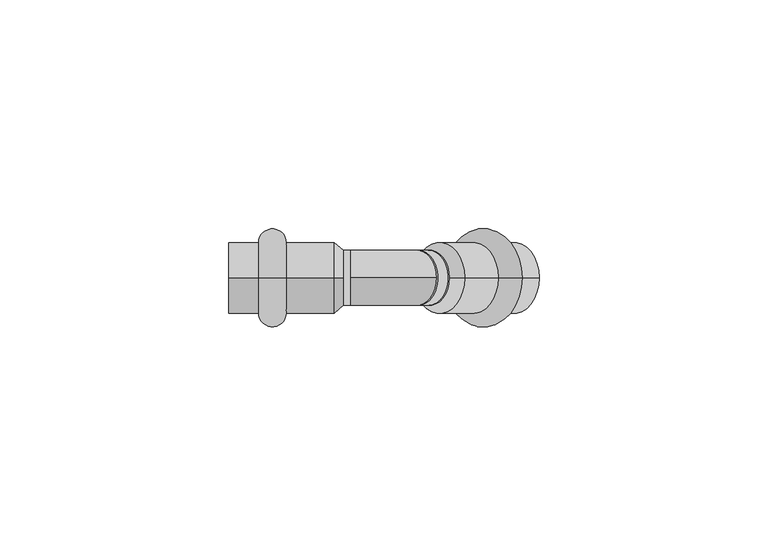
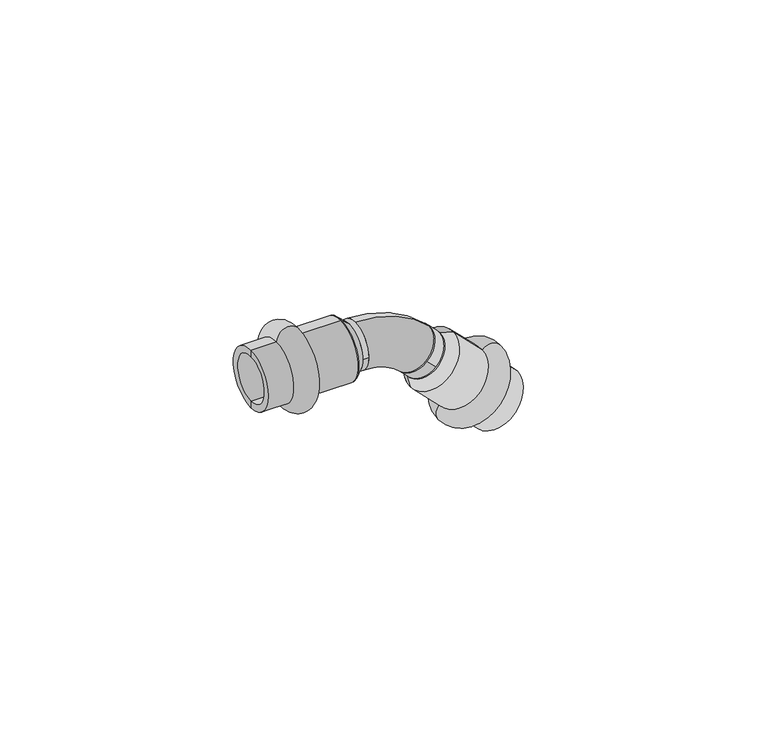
"""IFC4 building model written with IfcOpenShell, lengths in millimetres: pipe fitting geometry, VALTEC_VTi.959.I_Угольник 45° (раструб–раструб) нержавеющая сталь : Тип 1."""

from ifc_helpers import new_model, si_unit, point, frame, frame_2d, origin, origin_2d, place, context, project, spatial, polyline, circle_curve, ellipse_curve, trimmed, segment, composite_curve, outline, extrude, source, transform, mapped, element, save
from ifc_brep_helpers import plane_surface, cylinder_surface, revolved_surface, advanced_brep


def pipe_fitting_9338b2b2(model_context):
    return source(origin(), model_context, "Body", "SolidModel", [
        advanced_brep(
        [(-3.5, 0.0, 7.75), (-3.5, 0.0, -7.75), (-1.5, 0.0, 6.0), (-1.5, 0.0, -6.0)],
        [
            (0, 1, circle_curve(frame((-3.5, 0.0, 0.0), z_axis=(-1.0, 0.0, 0.0), x_axis=(0.0, 0.0, 1.0)), 7.75)),
            (1, 0, circle_curve(frame((-3.5, 0.0, 0.0), z_axis=(-1.0, 0.0, 0.0), x_axis=(0.0, 0.0, -1.0)), 7.75)),
            (2, 3, circle_curve(frame((-1.5, 0.0, 0.0), z_axis=(1.0, 0.0, 0.0), x_axis=(0.0, 0.0, -1.0)), 6.0)),
            (3, 2, circle_curve(frame((-1.5, 0.0, 0.0), z_axis=(1.0, 0.0, 0.0), x_axis=(0.0, 0.0, 1.0)), 6.0)),
            (3, 1),
            (0, 2),
        ],
        [
            plane_surface(frame((-3.5, 0.0, 0.0), z_axis=(-1.0, 0.0, 0.0), x_axis=(0.0, 1.0, 0.0))),
            plane_surface(frame((-1.5, 0.0, 0.0), z_axis=(1.0, 0.0, 0.0), x_axis=(0.0, 1.0, 0.0))),
            revolved_surface(polyline([(-1.5, 0.0, -6.000000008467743), (-3.499999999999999, 0.0, -7.75)]), (5.3571429, 0.0, 0.0), (-1.0, 0.0, 0.0)),
            revolved_surface(polyline([(-1.5, 0.0, 6.000000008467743), (-3.499999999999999, 0.0, 7.75)]), (5.3571429, 0.0, 0.0), (-1.0, 0.0, 0.0)),
        ],
        [
            (0, [[1, 2]]),
            (1, [[3, 4]]),
            (2, [[-4, 5, -1, 6]]),
            (3, [[-3, -6, -2, -5]]),
        ],
    ),
        advanced_brep(
        [(14.0186598, 0.0, -16.2803301), (24.9788149, 0.0, -5.320175), (13.1347763, 0.0, -12.9215729), (21.6200577, 0.0, -4.4362915)],
        [
            (0, 1, circle_curve(frame((19.4987373, 0.0, -10.8002525), z_axis=(0.7071067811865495, 0.0, -0.7071067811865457), x_axis=(-0.7071067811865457, 0.0, -0.7071067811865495)), 7.75)),
            (1, 0, circle_curve(frame((19.4987373, 0.0, -10.8002525), z_axis=(0.7071067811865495, 0.0, -0.7071067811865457), x_axis=(0.7071067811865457, 0.0, 0.7071067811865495)), 7.75)),
            (2, 3, circle_curve(frame((17.377417, 0.0, -8.6789322), z_axis=(-0.7071067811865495, 0.0, 0.7071067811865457), x_axis=(0.7071067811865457, 0.0, 0.7071067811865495)), 6.0)),
            (3, 2, circle_curve(frame((17.377417, 0.0, -8.6789322), z_axis=(-0.7071067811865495, 0.0, 0.7071067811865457), x_axis=(-0.7071067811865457, 0.0, -0.7071067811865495)), 6.0)),
            (3, 1),
            (0, 2),
        ],
        [
            plane_surface(frame((19.4987373, 0.0, -10.8002525), z_axis=(0.7071067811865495, 0.0, -0.7071067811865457), x_axis=(0.0, 1.0, 0.0))),
            plane_surface(frame((17.377417, 0.0, -8.6789322), z_axis=(-0.7071067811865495, 0.0, 0.7071067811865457), x_axis=(0.0, 1.0, 0.0))),
            revolved_surface(polyline([(21.62005767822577, 0.0, -4.4362915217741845), (24.9788149, 0.0, -5.320175)]), (10.1043187, 0.0, -1.4058339), (0.7071067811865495, 0.0, -0.7071067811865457)),
            revolved_surface(polyline([(13.134776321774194, 0.0, -12.921572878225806), (14.01865980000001, 0.0, -16.280330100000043)]), (10.1043187, 0.0, -1.4058339), (0.7071067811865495, 0.0, -0.7071067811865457)),
        ],
        [
            (0, [[1, 2]]),
            (1, [[3, 4]]),
            (2, [[-4, 5, -1, 6]]),
            (3, [[-3, -6, -2, -5]]),
        ],
    ),
        advanced_brep(
        [(-20.0, 0.0, -7.75), (-20.0, 0.0, 7.75), (-14.0, 0.0, 7.75), (-14.0, 0.0, -7.75), (-26.5, 0.0, -7.75), (-26.5, 0.0, 7.75), (-26.5, 0.0, -6.0), (-26.5, 0.0, 6.0), (-3.5, 0.0, -6.0), (-3.5, 0.0, 6.0), (-3.5, 0.0, -7.75), (-3.5, 0.0, 7.75)],
        [
            (0, 1, circle_curve(frame((-20.0, 0.0, 0.0), z_axis=(1.0, 0.0, 0.0), x_axis=(0.0, 0.0, 1.0)), 7.75)),
            (1, 2, circle_curve(frame((-17.0, 0.0, 7.75), z_axis=(0.0, 1.0, 0.0), x_axis=(1.0, 0.0, 0.0)), 3.0)),
            (2, 3, circle_curve(frame((-14.0, 0.0, 0.0), z_axis=(-1.0, 0.0, 0.0), x_axis=(0.0, 0.0, 1.0)), 7.75)),
            (3, 0, circle_curve(frame((-17.0, 0.0, -7.75), z_axis=(0.0, 1.0, 0.0), x_axis=(1.0, 0.0, 0.0)), 3.0)),
            (1, 0, circle_curve(frame((-20.0, 0.0, 0.0), z_axis=(1.0, 0.0, 0.0), x_axis=(0.0, 0.0, 1.0)), 7.75)),
            (3, 2, circle_curve(frame((-14.0, 0.0, 0.0), z_axis=(-1.0, 0.0, 0.0), x_axis=(0.0, 0.0, 1.0)), 7.75)),
            (4, 5, circle_curve(frame((-26.5, 0.0, 0.0), z_axis=(1.0, 0.0, 0.0), x_axis=(0.0, 0.0, 1.0)), 7.75)),
            (5, 1),
            (0, 4),
            (5, 4, circle_curve(frame((-26.5, 0.0, 0.0), z_axis=(1.0, 0.0, 0.0), x_axis=(0.0, 0.0, 1.0)), 7.75)),
            (6, 7, circle_curve(frame((-26.5, 0.0, 0.0), z_axis=(1.0, 0.0, 0.0), x_axis=(0.0, 0.0, 1.0)), 6.0)),
            (7, 5),
            (4, 6),
            (7, 6, circle_curve(frame((-26.5, 0.0, 0.0), z_axis=(1.0, 0.0, 0.0), x_axis=(0.0, 0.0, 1.0)), 6.0)),
            (8, 9, circle_curve(frame((-3.5, 0.0, 0.0), z_axis=(1.0, 0.0, 0.0), x_axis=(0.0, 0.0, 1.0)), 6.0)),
            (9, 7),
            (6, 8),
            (9, 8, circle_curve(frame((-3.5, 0.0, 0.0), z_axis=(1.0, 0.0, 0.0), x_axis=(0.0, 0.0, 1.0)), 6.0)),
            (10, 11, circle_curve(frame((-3.5, 0.0, 0.0), z_axis=(1.0, 0.0, 0.0), x_axis=(0.0, 0.0, 1.0)), 7.75)),
            (11, 9),
            (8, 10),
            (11, 10, circle_curve(frame((-3.5, 0.0, 0.0), z_axis=(1.0, 0.0, 0.0), x_axis=(0.0, 0.0, 1.0)), 7.75)),
            (2, 11),
            (10, 3),
        ],
        [
            revolved_surface(trimmed(ellipse_curve(frame((-17.0, 0.0, 7.75), z_axis=(0.0, -1.0, 0.0), x_axis=(1.0, 0.0, 0.0)), 3.0, 3.0), [point((-14.0, 0.0, 7.75))], [point((-20.0, 0.0, 7.75))], True, "CARTESIAN"), (-30.0364426, 0.0, 0.0), (-1.0, 0.0, 0.0)),
            cylinder_surface(frame((-30.0364426, 0.0, 0.0), z_axis=(-1.0, 0.0, 0.0), x_axis=(0.0, 0.0, 1.0)), 7.75),
            plane_surface(frame((-26.5, 0.0, 0.0), z_axis=(-1.0, 0.0, 0.0), x_axis=(0.0, 0.0, 1.0))),
            revolved_surface(polyline([(-26.5, 0.0, 6.0), (-3.5, 0.0, 6.0)]), (-30.0364426, 0.0, 0.0), (-1.0, 0.0, 0.0)),
            plane_surface(frame((-3.5, 0.0, 0.0), z_axis=(1.0, 0.0, 0.0), x_axis=(0.0, 0.0, 1.0))),
        ],
        [
            (0, [[1, 2, 3, 4]]),
            (0, [[5, -4, 6, -2]]),
            (1, [[7, 8, -1, 9]]),
            (1, [[10, -9, -5, -8]]),
            (2, [[11, 12, -7, 13]]),
            (2, [[14, -13, -10, -12]]),
            (3, [[15, 16, -11, 17]]),
            (3, [[18, -17, -14, -16]]),
            (4, [[19, 20, -15, 21]]),
            (4, [[22, -21, -18, -20]]),
            (1, [[-3, 23, -19, 24]]),
            (1, [[-6, -24, -22, -23]]),
        ],
    ),
        advanced_brep(
        [(36.6460768, 0.0, -16.9874369), (25.6859217, 0.0, -27.947592), (21.443281, 0.0, -23.7049513), (32.4034361, 0.0, -12.7447962), (41.2422709, 0.0, -21.5836309), (30.2821158, 0.0, -32.5437861), (40.004834, 0.0, -22.8210678), (31.5195526, 0.0, -31.3063492), (23.741378, 0.0, -6.5576118), (15.2560967, 0.0, -15.0428932), (24.9788149, 0.0, -5.320175), (14.0186598, 0.0, -16.2803301)],
        [
            (0, 1, circle_curve(frame((31.1659992, 0.0, -22.4675144), z_axis=(-0.7071067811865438, 0.0, 0.7071067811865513), x_axis=(-0.7071067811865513, 0.0, -0.7071067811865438)), 7.75)),
            (1, 2, circle_curve(frame((23.5646013, 0.0, -25.8262716), z_axis=(0.0, 1.0, 0.0), x_axis=(-0.7071067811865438, 0.0, 0.7071067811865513)), 3.0)),
            (2, 3, circle_curve(frame((26.9233585, 0.0, -18.2248737), z_axis=(0.7071067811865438, 0.0, -0.7071067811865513), x_axis=(-0.7071067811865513, 0.0, -0.7071067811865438)), 7.75)),
            (3, 0, circle_curve(frame((34.5247564, 0.0, -14.8661165), z_axis=(0.0, 1.0, 0.0), x_axis=(-0.7071067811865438, 0.0, 0.7071067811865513)), 3.0)),
            (1, 0, circle_curve(frame((31.1659992, 0.0, -22.4675144), z_axis=(-0.7071067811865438, 0.0, 0.7071067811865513), x_axis=(-0.7071067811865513, 0.0, -0.7071067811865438)), 7.75)),
            (3, 2, circle_curve(frame((26.9233585, 0.0, -18.2248737), z_axis=(0.7071067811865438, 0.0, -0.7071067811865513), x_axis=(-0.7071067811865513, 0.0, -0.7071067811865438)), 7.75)),
            (4, 5, circle_curve(frame((35.7621933, 0.0, -27.0637085), z_axis=(-0.7071067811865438, 0.0, 0.7071067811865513), x_axis=(-0.7071067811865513, 0.0, -0.7071067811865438)), 7.75)),
            (5, 1),
            (0, 4),
            (5, 4, circle_curve(frame((35.7621933, 0.0, -27.0637085), z_axis=(-0.7071067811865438, 0.0, 0.7071067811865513), x_axis=(-0.7071067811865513, 0.0, -0.7071067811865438)), 7.75)),
            (6, 7, circle_curve(frame((35.7621933, 0.0, -27.0637085), z_axis=(-0.7071067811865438, 0.0, 0.7071067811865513), x_axis=(-0.7071067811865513, 0.0, -0.7071067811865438)), 6.0)),
            (7, 5),
            (4, 6),
            (7, 6, circle_curve(frame((35.7621933, 0.0, -27.0637085), z_axis=(-0.7071067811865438, 0.0, 0.7071067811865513), x_axis=(-0.7071067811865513, 0.0, -0.7071067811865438)), 6.0)),
            (8, 9, circle_curve(frame((19.4987373, 0.0, -10.8002525), z_axis=(-0.7071067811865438, 0.0, 0.7071067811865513), x_axis=(-0.7071067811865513, 0.0, -0.7071067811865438)), 6.0)),
            (9, 7),
            (6, 8),
            (9, 8, circle_curve(frame((19.4987373, 0.0, -10.8002525), z_axis=(-0.7071067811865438, 0.0, 0.7071067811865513), x_axis=(-0.7071067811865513, 0.0, -0.7071067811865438)), 6.0)),
            (10, 11, circle_curve(frame((19.4987373, 0.0, -10.8002525), z_axis=(-0.7071067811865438, 0.0, 0.7071067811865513), x_axis=(-0.7071067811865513, 0.0, -0.7071067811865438)), 7.75)),
            (11, 9),
            (8, 10),
            (11, 10, circle_curve(frame((19.4987373, 0.0, -10.8002525), z_axis=(-0.7071067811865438, 0.0, 0.7071067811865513), x_axis=(-0.7071067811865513, 0.0, -0.7071067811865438)), 7.75)),
            (2, 11),
            (10, 3),
        ],
        [
            revolved_surface(trimmed(ellipse_curve(frame((23.5646013, 0.0, -25.8262716), z_axis=(0.0, -1.0, 0.0), x_axis=(-0.7071067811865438, 0.0, 0.7071067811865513)), 3.0, 3.0), [point((21.443281, 0.0, -23.7049513))], [point((25.6859217, 0.0, -27.947592))], True, "CARTESIAN"), (38.2628359, 0.0, -29.5643511), (0.7071067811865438, 0.0, -0.7071067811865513)),
            cylinder_surface(frame((38.2628359, 0.0, -29.5643511), z_axis=(0.7071067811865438, 0.0, -0.7071067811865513), x_axis=(-0.7071067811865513, 0.0, -0.7071067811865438)), 7.75),
            plane_surface(frame((35.7621933, 0.0, -27.0637085), z_axis=(0.7071067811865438, 0.0, -0.7071067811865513), x_axis=(-0.7071067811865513, 0.0, -0.7071067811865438))),
            revolved_surface(polyline([(31.51955261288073, 0.0, -31.306349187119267), (15.256096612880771, 0.0, -15.042893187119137)]), (38.2628359, 0.0, -29.5643511), (0.7071067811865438, 0.0, -0.7071067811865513)),
            plane_surface(frame((19.4987373, 0.0, -10.8002525), z_axis=(-0.7071067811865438, 0.0, 0.7071067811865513), x_axis=(-0.7071067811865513, 0.0, -0.7071067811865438))),
        ],
        [
            (0, [[1, 2, 3, 4]]),
            (0, [[5, -4, 6, -2]]),
            (1, [[7, 8, -1, 9]]),
            (1, [[10, -9, -5, -8]]),
            (2, [[11, 12, -7, 13]]),
            (2, [[14, -13, -10, -12]]),
            (3, [[15, 16, -11, 17]]),
            (3, [[18, -17, -14, -16]]),
            (4, [[19, 20, -15, 21]]),
            (4, [[22, -21, -18, -20]]),
            (1, [[-3, 23, -19, 24]]),
            (1, [[-6, -24, -22, -23]]),
        ],
    ),
        extrude(outline(composite_curve([segment(trimmed(circle_curve(origin_2d(), 6.0), [point((-6.0, 0.0))], [point((6.0, 0.0))], False, "CARTESIAN"), True, "CONTINUOUS"), segment(trimmed(circle_curve(origin_2d(), 6.0), [point((6.0, 0.0))], [point((-6.0, 0.0))], False, "CARTESIAN"), True, "CONTINUOUS")], self_intersect=False)), frame((-1.5, 0.0, 0.0), z_axis=(1.0, 0.0, 0.0), x_axis=(0.0, 1.0, 0.0)), (0.0, 0.0, 1.0), 1.5),
        extrude(outline(composite_curve([segment(trimmed(circle_curve(frame_2d((0.0, -6.0)), 6.0), [point((0.0, -12.0))], [point((0.0, 0.0))], False, "CARTESIAN"), True, "CONTINUOUS"), segment(trimmed(circle_curve(frame_2d((0.0, -6.0)), 6.0), [point((0.0, 0.0))], [point((0.0, -12.0))], False, "CARTESIAN"), True, "CONTINUOUS")], self_intersect=False)), frame((17.377417, -6.0, -8.6789322), z_axis=(-0.7071067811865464, 0.0, 0.7071067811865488), x_axis=(-0.7071067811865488, 0.0, -0.7071067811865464)), (0.0, 0.0, 1.0), 3.5753788),
        advanced_brep(
        [(0.0, 0.0, -6.0), (0.0, 0.0, 6.0), (10.6066017, 0.0, -10.3933983), (19.0918831, 0.0, -1.9081169)],
        [
            (0, 1, circle_curve(frame((0.0, 0.0, 0.0), z_axis=(-1.0, 0.0, 0.0), x_axis=(0.0, 0.0, 1.0)), 6.0)),
            (1, 0, circle_curve(frame((0.0, 0.0, 0.0), z_axis=(-1.0, 0.0, 0.0), x_axis=(0.0, 0.0, 1.0)), 6.0)),
            (2, 3, circle_curve(frame((14.8492424, 0.0, -6.1507576), z_axis=(0.7071067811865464, 0.0, -0.7071067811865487), x_axis=(0.7071067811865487, 0.0, 0.7071067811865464)), 6.0)),
            (3, 2, circle_curve(frame((14.8492424, 0.0, -6.1507576), z_axis=(0.7071067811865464, 0.0, -0.7071067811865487), x_axis=(0.7071067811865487, 0.0, 0.7071067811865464)), 6.0)),
            (3, 1, circle_curve(frame((0.0, 0.0, -21.0), z_axis=(0.0, -1.0, 0.0), x_axis=(0.0, 0.0, 1.0)), 27.0)),
            (0, 2, circle_curve(frame((0.0, 0.0, -21.0), z_axis=(0.0, 1.0, 0.0), x_axis=(0.0, 0.0, 1.0)), 15.0)),
        ],
        [
            plane_surface(frame((0.0, 0.0, 0.0), z_axis=(-1.0, 0.0, 0.0), x_axis=(0.0, -1.0, 0.0))),
            plane_surface(frame((14.8492424, 0.0, -6.1507576), z_axis=(0.7071067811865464, 0.0, -0.7071067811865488), x_axis=(0.0, -1.0, 0.0))),
            revolved_surface(trimmed(ellipse_curve(frame((0.0, 0.0, 0.0), z_axis=(-1.0, 0.0, 0.0), x_axis=(0.0, 0.0, 1.0)), 6.0, 6.0), [point((0.0, 0.0, -6.0))], [point((0.0, 0.0, 6.0))], True, "CARTESIAN"), (0.0, 0.0, -21.0), (0.0, 1.0, 0.0)),
            revolved_surface(trimmed(ellipse_curve(frame((0.0, 0.0, 0.0), z_axis=(-1.0, 0.0, 0.0), x_axis=(0.0, 0.0, 1.0)), 6.0, 6.0), [point((0.0, 0.0, 6.0))], [point((0.0, 0.0, -6.0))], True, "CARTESIAN"), (0.0, 0.0, -21.0), (0.0, 1.0, 0.0)),
        ],
        [
            (0, [[1, 2]]),
            (1, [[3, 4]]),
            (2, [[5, -1, 6, -4]]),
            (3, [[-6, -2, -5, -3]]),
        ],
    ),
    ])


if __name__ == "__main__":
    model = new_model("IFC4")
    model_context = context("Model", 3, world=origin())
    ifc_project = project(units=[si_unit("LENGTHUNIT", "METRE", prefix="MILLI")], contexts=[model_context])
    site = spatial("IfcSite", under=ifc_project)
    building = spatial("IfcBuilding", under=site)
    placement = place(None, origin())
    pipe_fitting_shape = pipe_fitting_9338b2b2(model_context)
    element("IfcPipeFitting", 1, ObjectType="VALTEC_VTi.959.I_Угольник 45° (раструб–раструб) нержавеющая сталь : Тип 1", at=placement, inside=building, context=model_context, shape_type="MappedRepresentation", body=[
        mapped(pipe_fitting_shape, transform((0.0, 0.0, 0.0), x_axis=(1.0, 0.0, 0.0), y_axis=(0.0, 1.0, 0.0), z_axis=(0.0, 0.0, 1.0))),
    ])
    save(model, "model.ifc")
